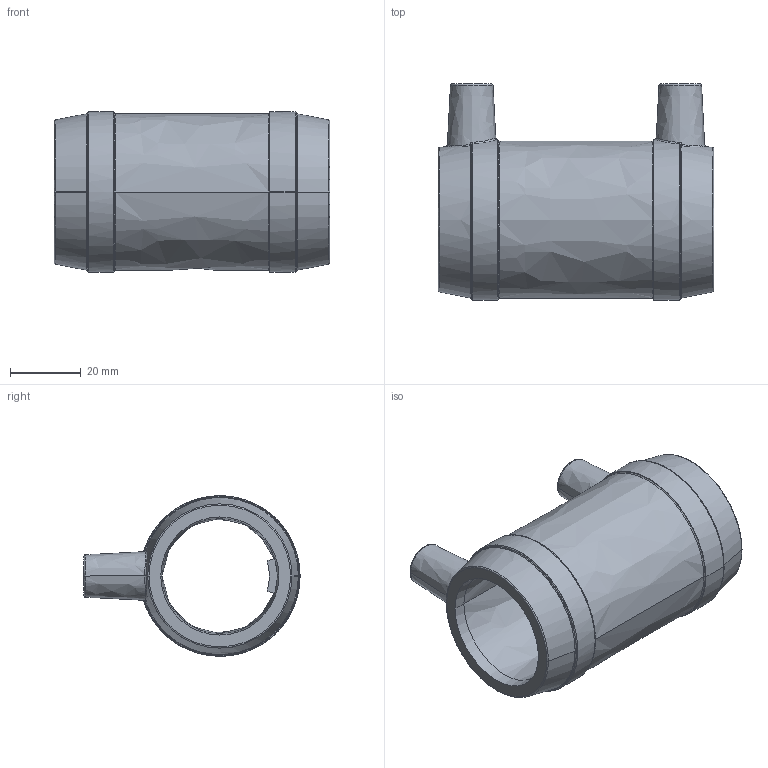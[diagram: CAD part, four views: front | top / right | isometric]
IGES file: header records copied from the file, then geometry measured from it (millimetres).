
Start section:  PTC IGES file: mb_d032_01.igs
Global section: file name: mb_d032_01.igs; native system: Pro/ENGINEER by Parametric Technology Corporation; preprocessor: 2011490; author: mtunjic; organization: Unknown; date: 20130805.164227; units: millimetre
Bounding box: 78 x 61.15 x 45.4 mm (x, y, z)
Surface area: 21228.7 mm2 (no closed solid volume)
Topology: 0 solids, 0 shells, 196 faces, 980 edges, 980 vertices
Faces by surface type: bspline 196
